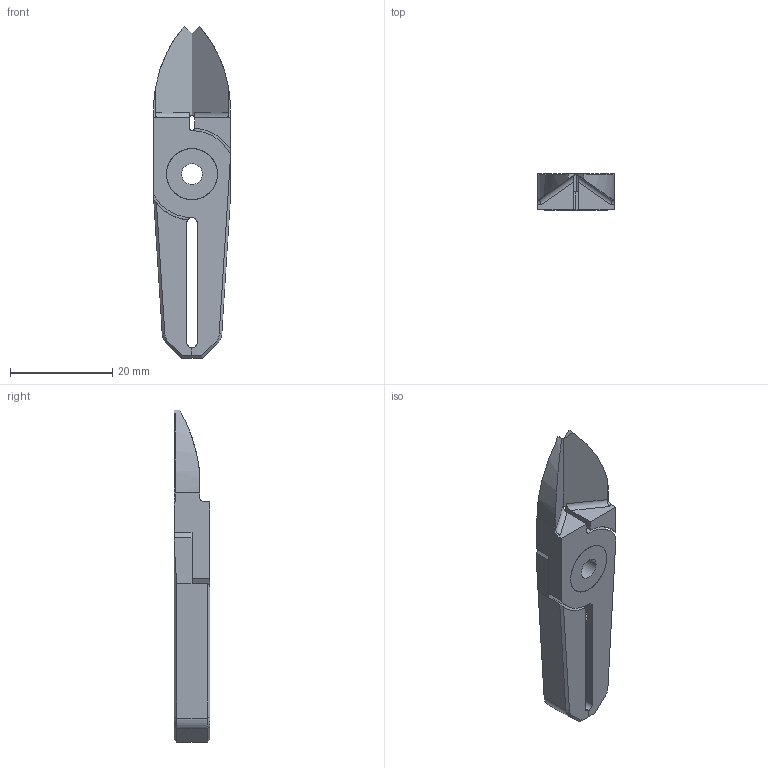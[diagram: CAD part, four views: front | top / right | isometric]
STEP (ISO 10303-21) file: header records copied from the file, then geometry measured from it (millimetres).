
FILE_DESCRIPTION (( 'STEP AP214' ), '1' );
FILE_NAME ('NT05AJ.STEP', '2019-11-28T05:26:35', ( '微软用户' ), ( '微软中国' ), 'SwSTEP 2.0', 'SolidWorks 2016', '' );
FILE_SCHEMA (( 'AUTOMOTIVE_DESIGN' ));
Length unit declared in the file: millimetre
Products named in the file (1): NT05AJ
Bounding box: 15 x 7 x 65 mm (x, y, z)
Surface area: 4012 mm2 (no closed solid volume)
Topology: 0 solids, 5 shells, 110 faces, 310 edges, 196 vertices
Faces by surface type: plane 52, cylinder 38, cone 16, bspline 4
Entity records: 4377 total; most frequent: CARTESIAN_POINT 1551, DIRECTION 594, ORIENTED_EDGE 564, EDGE_CURVE 306, AXIS2_PLACEMENT_3D 203, VERTEX_POINT 196, VECTOR 188, LINE 188
